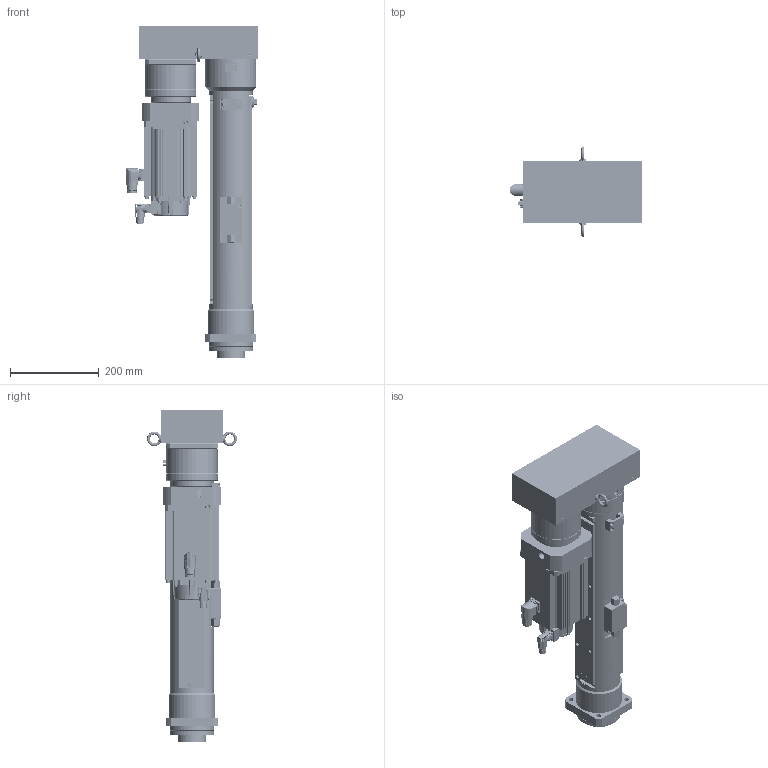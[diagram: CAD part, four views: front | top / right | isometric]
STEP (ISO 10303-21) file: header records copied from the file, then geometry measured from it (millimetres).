
FILE_DESCRIPTION( ('This file contains a STEP AP42 implementation' ,'as created by ZW3D STEP Interface translator.') ,'2;1' );
FILE_NAME( 'OACIS-DC-P025-P030-400-215-A6V400_V20.51.stp' ,'26 421.184915', (''), ('ZWCAD Software Co.'), 'Version 1.0', 'ZW3D to STEP translator', '' );
FILE_SCHEMA(('AUTOMOTIVE_DESIGN { 1 0 10303 214 1 1 1 1 }'));
Length unit declared in the file: millimetre
Products named in the file (1): 0
Bounding box: 299.5 x 202.6 x 748 mm (x, y, z)
Volume: 9965141.6 mm3; surface area: 1658497.4 mm2
Topology: 52 solids, 55 shells, 3596 faces, 9298 edges, 6091 vertices
Faces by surface type: cylinder 1649, plane 1436, cone 357, torus 109, bspline 25, sphere 20
Full cylindrical faces by diameter (mm): 1.25 x12, 1.6 x8, 2.232 x6, 2.459 x5, 2.75 x4, 2.8 x1, 3.2 x5, 3.242 x10, 3.3 x91, 4 x8, 4.134 x14, 4.2 x4, 4.3 x32, 4.5 x4, 5 x36, 5.5 x9, 6 x4, 6.6 x14, 6.647 x4, 6.8 x42, 7 x12, 8 x39, 8.4 x8, 8.5 x35, 9 x8, 9.5 x4, 10 x8, 10.106 x1, 11 x12, 12 x1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
Entity records: 121149 total; most frequent: CARTESIAN_POINT 25261, DIRECTION 20322, ORIENTED_EDGE 18302, EDGE_CURVE 9193, AXIS2_PLACEMENT_3D 8005, VERTEX_POINT 6033, CIRCLE 4410, VECTOR 4312
